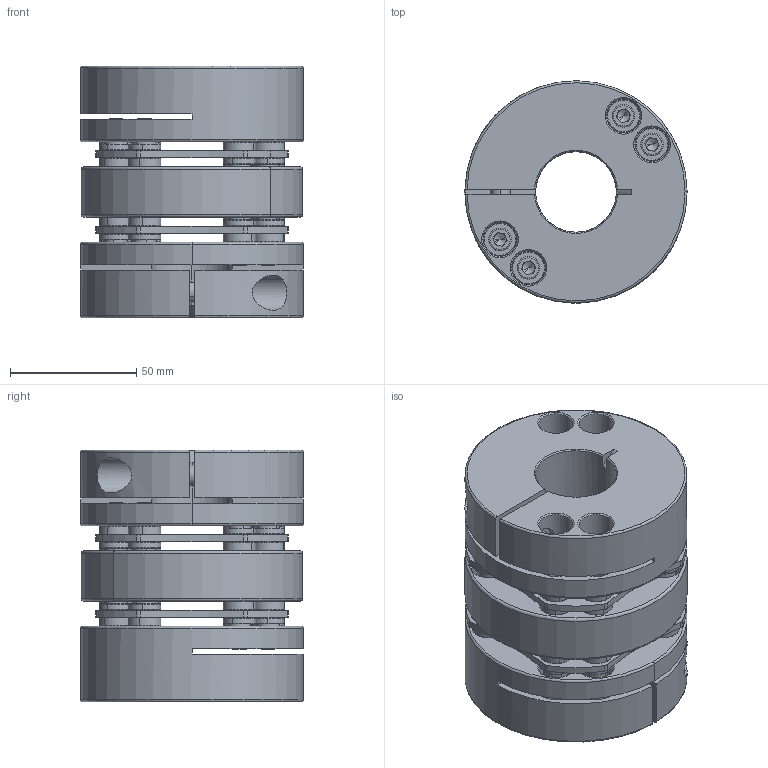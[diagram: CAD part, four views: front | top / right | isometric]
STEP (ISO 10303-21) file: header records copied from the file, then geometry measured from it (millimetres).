
FILE_DESCRIPTION (( 'STEP AP214' ), '1' );
FILE_NAME ('shdw-88c.STEP', '2009-05-21T09:16:16', ( '歜煽繹' ), ( '' ), 'SwSTEP 2.0', 'SolidWorks 2007', '' );
FILE_SCHEMA (( 'AUTOMOTIVE_DESIGN' ));
Length unit declared in the file: millimetre
Products named in the file (9): shdw-88c; sus-plate1_ル遽; M8x25; 誠纖掘葬-22_ル遽; collar-2_ル遽; M6x18; 憮蝶っ橫撬_ル遽; 醞除っ_ル遽; collar-1_ル遽
Assembly tree (32 placements, depth 3):
  shdw-88c
    醞除っ_ル遽
    M8x25  x2
    憮蝶っ橫撬_ル遽  x2
      collar-2_ル遽
      M6x18
      collar-1_ル遽
      sus-plate1_ル遽
    誠纖掘葬-22_ル遽  x2
Bounding box: 88 x 88 x 99.8 mm (x, y, z)
Volume: 378753.2 mm3; surface area: 130415.8 mm2
Topology: 55 solids, 55 shells, 1288 faces, 2798 edges, 1640 vertices
Faces by surface type: cylinder 384, plane 384, torus 376, cone 144
Entity records: 8109 total; most frequent: DIRECTION 1522, CARTESIAN_POINT 1443, ORIENTED_EDGE 1194, AXIS2_PLACEMENT_3D 646, EDGE_CURVE 597, VERTEX_POINT 363, CIRCLE 355, EDGE_LOOP 324
